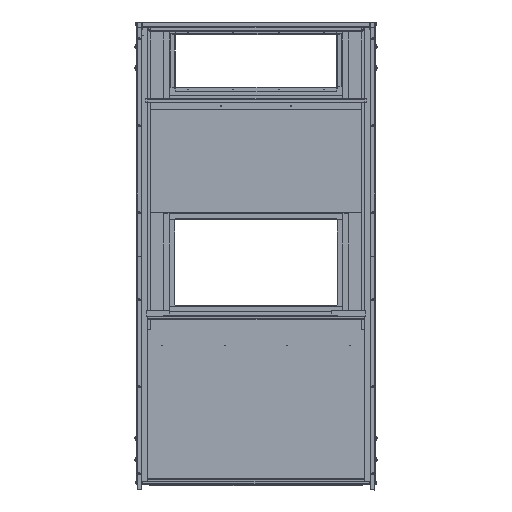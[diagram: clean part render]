
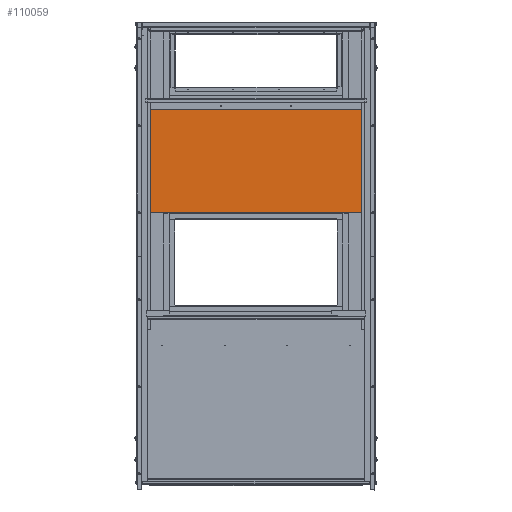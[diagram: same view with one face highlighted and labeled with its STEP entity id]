
A CAD part, top view. The second image highlights one B-rep face of the part: STEP entity #110059.
In plain terms, the highlighted planar face has unit normal (0, 0, 1).
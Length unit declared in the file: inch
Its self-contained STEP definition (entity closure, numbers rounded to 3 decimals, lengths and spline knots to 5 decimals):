
#2729 = PLANE ( 'NONE',  #32774 ) ;
#6507 = DIRECTION ( 'NONE',  ( 0., 0., -1. ) ) ;
#7020 = CARTESIAN_POINT ( 'NONE',  ( 21.7228, 35.92656, 3.97914 ) ) ;
#13780 = DIRECTION ( 'NONE',  ( 0., -1., 0. ) ) ;
#20447 = EDGE_CURVE ( 'NONE', #79202, #83143, #109645, .T. ) ;
#23058 = EDGE_CURVE ( 'NONE', #83143, #171977, #36155, .T. ) ;
#32774 = AXIS2_PLACEMENT_3D ( 'NONE', #109932, #6507, #127297 ) ;
#36155 = LINE ( 'NONE', #134672, #79044 ) ;
#52034 = CARTESIAN_POINT ( 'NONE',  ( 21.7228, 16.92656, 3.97914 ) ) ;
#54520 = VECTOR ( 'NONE', #76416, 39.37008 ) ;
#60578 = FACE_OUTER_BOUND ( 'NONE', #105655, .T. ) ;
#63519 = VECTOR ( 'NONE', #66433, 39.37008 ) ;
#63861 = DIRECTION ( 'NONE',  ( 1., 0., 0. ) ) ;
#66433 = DIRECTION ( 'NONE',  ( -1., 0., 0. ) ) ;
#72091 = EDGE_CURVE ( 'NONE', #171977, #132767, #217828, .T. ) ;
#76416 = DIRECTION ( 'NONE',  ( 0., 1., 0. ) ) ;
#79044 = VECTOR ( 'NONE', #13780, 39.37008 ) ;
#79202 = VERTEX_POINT ( 'NONE', #205519 ) ;
#82059 = CARTESIAN_POINT ( 'NONE',  ( -17.5272, 16.92657, 3.97914 ) ) ;
#83143 = VERTEX_POINT ( 'NONE', #158377 ) ;
#88707 = ORIENTED_EDGE ( 'NONE', *, *, #201271, .T. ) ;
#100563 = CARTESIAN_POINT ( 'NONE',  ( 21.7228, 35.92656, 3.97914 ) ) ;
#105655 = EDGE_LOOP ( 'NONE', ( #88707, #131009, #209638, #112053 ) ) ;
#109645 = LINE ( 'NONE', #100563, #63519 ) ;
#109932 = CARTESIAN_POINT ( 'NONE',  ( -17.5272, 16.92657, 3.97914 ) ) ;
#110059 = ADVANCED_FACE ( 'NONE', ( #60578 ), #2729, .F. ) ;
#112053 = ORIENTED_EDGE ( 'NONE', *, *, #72091, .T. ) ;
#127297 = DIRECTION ( 'NONE',  ( 0., 1., 0. ) ) ;
#131009 = ORIENTED_EDGE ( 'NONE', *, *, #20447, .T. ) ;
#132767 = VERTEX_POINT ( 'NONE', #52034 ) ;
#132781 = CARTESIAN_POINT ( 'NONE',  ( 21.7228, 16.92656, 3.97914 ) ) ;
#134672 = CARTESIAN_POINT ( 'NONE',  ( -17.5272, 35.92657, 3.97914 ) ) ;
#146577 = LINE ( 'NONE', #7020, #54520 ) ;
#158377 = CARTESIAN_POINT ( 'NONE',  ( -17.5272, 35.92657, 3.97914 ) ) ;
#171841 = VECTOR ( 'NONE', #63861, 39.37008 ) ;
#171977 = VERTEX_POINT ( 'NONE', #82059 ) ;
#201271 = EDGE_CURVE ( 'NONE', #132767, #79202, #146577, .T. ) ;
#205519 = CARTESIAN_POINT ( 'NONE',  ( 21.7228, 35.92656, 3.97914 ) ) ;
#209638 = ORIENTED_EDGE ( 'NONE', *, *, #23058, .T. ) ;
#217828 = LINE ( 'NONE', #132781, #171841 ) ;
